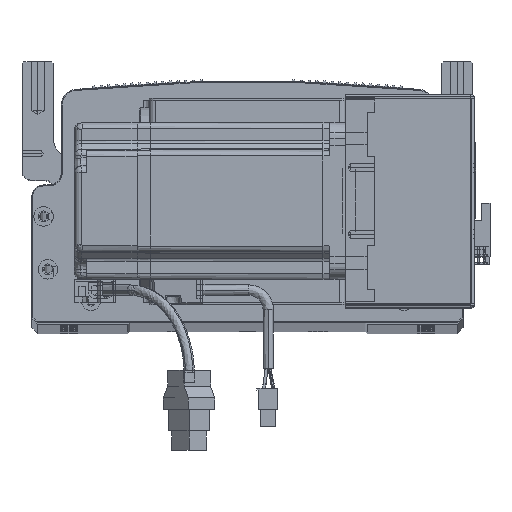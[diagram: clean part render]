
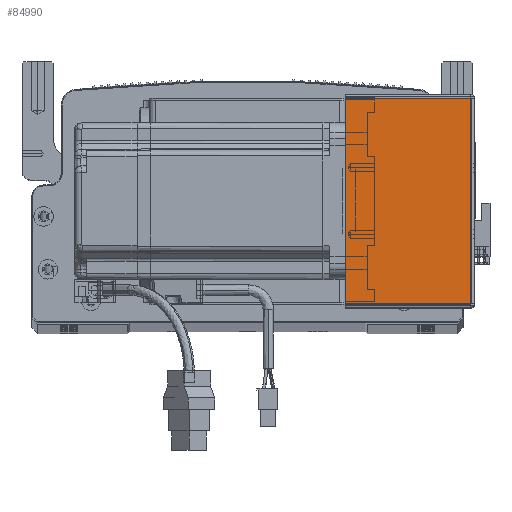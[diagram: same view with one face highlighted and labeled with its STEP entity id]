
A CAD part, top view. The second image highlights one B-rep face of the part: STEP entity #84990.
In plain terms, the highlighted planar face has unit normal (0, 0, 1) as drawn and (0, 0, -1) by its records, which use the part's own axes.
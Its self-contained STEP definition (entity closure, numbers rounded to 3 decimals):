
#1237 = EDGE_CURVE ( 'NONE', #14939, #16522, #39558, .T. ) ;
#1985 = CARTESIAN_POINT ( 'NONE',  ( 0.737, 0.707, -205.5 ) ) ;
#9490 = DIRECTION ( 'NONE',  ( 0., -1., 0. ) ) ;
#9976 = AXIS2_PLACEMENT_3D ( 'NONE', #33043, #34964, #79751 ) ;
#14939 = VERTEX_POINT ( 'NONE', #1985 ) ;
#16025 = ORIENTED_EDGE ( 'NONE', *, *, #46694, .T. ) ;
#16522 = VERTEX_POINT ( 'NONE', #35186 ) ;
#17096 = VECTOR ( 'NONE', #9490, 1000. ) ;
#18351 = ORIENTED_EDGE ( 'NONE', *, *, #35613, .T. ) ;
#21074 = VERTEX_POINT ( 'NONE', #23971 ) ;
#21946 = VERTEX_POINT ( 'NONE', #54382 ) ;
#23465 = ORIENTED_EDGE ( 'NONE', *, *, #1237, .F. ) ;
#23971 = CARTESIAN_POINT ( 'NONE',  ( 0.737, 105.293, -205.5 ) ) ;
#26469 = CARTESIAN_POINT ( 'NONE',  ( 0.737, 0., -205.5 ) ) ;
#26510 = ORIENTED_EDGE ( 'NONE', *, *, #83306, .F. ) ;
#27532 = EDGE_LOOP ( 'NONE', ( #26510, #18351, #16025, #23465 ) ) ;
#27736 = DIRECTION ( 'NONE',  ( 0., -1., 0. ) ) ;
#33043 = CARTESIAN_POINT ( 'NONE',  ( 0., 0., -205.5 ) ) ;
#34964 = DIRECTION ( 'NONE',  ( 0., 0., 1. ) ) ;
#35186 = CARTESIAN_POINT ( 'NONE',  ( 64.5, 0.707, -205.5 ) ) ;
#35613 = EDGE_CURVE ( 'NONE', #21074, #21946, #73275, .T. ) ;
#39558 = LINE ( 'NONE', #96869, #46666 ) ;
#46666 = VECTOR ( 'NONE', #88382, 1000. ) ;
#46694 = EDGE_CURVE ( 'NONE', #21946, #16522, #48721, .T. ) ;
#48334 = VECTOR ( 'NONE', #27736, 1000. ) ;
#48721 = LINE ( 'NONE', #60499, #17096 ) ;
#54382 = CARTESIAN_POINT ( 'NONE',  ( 64.5, 105.293, -205.5 ) ) ;
#60256 = DIRECTION ( 'NONE',  ( 1., 0., 0. ) ) ;
#60499 = CARTESIAN_POINT ( 'NONE',  ( 64.5, 0., -205.5 ) ) ;
#63997 = VECTOR ( 'NONE', #60256, 1000. ) ;
#67890 = FACE_OUTER_BOUND ( 'NONE', #27532, .T. ) ;
#73275 = LINE ( 'NONE', #76200, #63997 ) ;
#76200 = CARTESIAN_POINT ( 'NONE',  ( 0., 105.293, -205.5 ) ) ;
#77180 = PLANE ( 'NONE',  #9976 ) ;
#79751 = DIRECTION ( 'NONE',  ( 1., 0., 0. ) ) ;
#83306 = EDGE_CURVE ( 'NONE', #21074, #14939, #85717, .T. ) ;
#84990 = ADVANCED_FACE ( 'NONE', ( #67890 ), #77180, .F. ) ;
#85717 = LINE ( 'NONE', #26469, #48334 ) ;
#88382 = DIRECTION ( 'NONE',  ( 1., 0., 0. ) ) ;
#96869 = CARTESIAN_POINT ( 'NONE',  ( 0., 0.707, -205.5 ) ) ;
